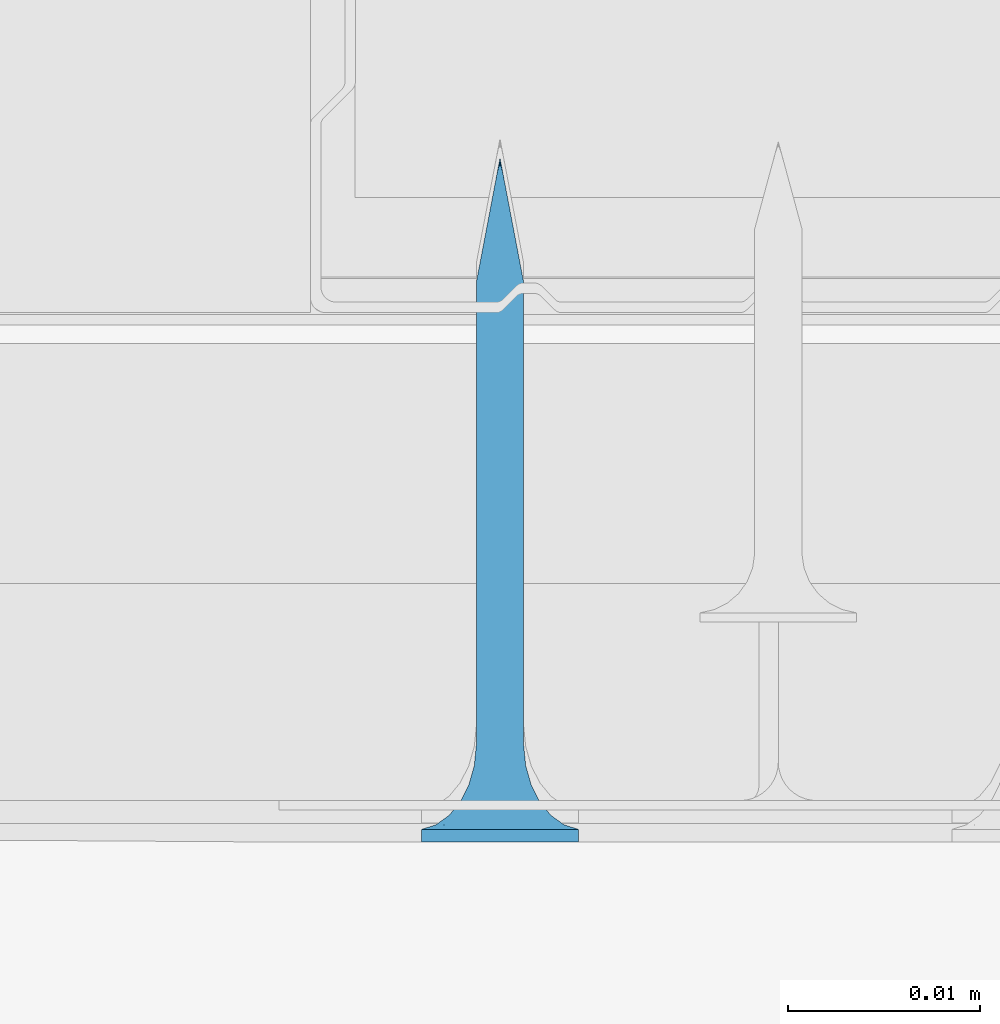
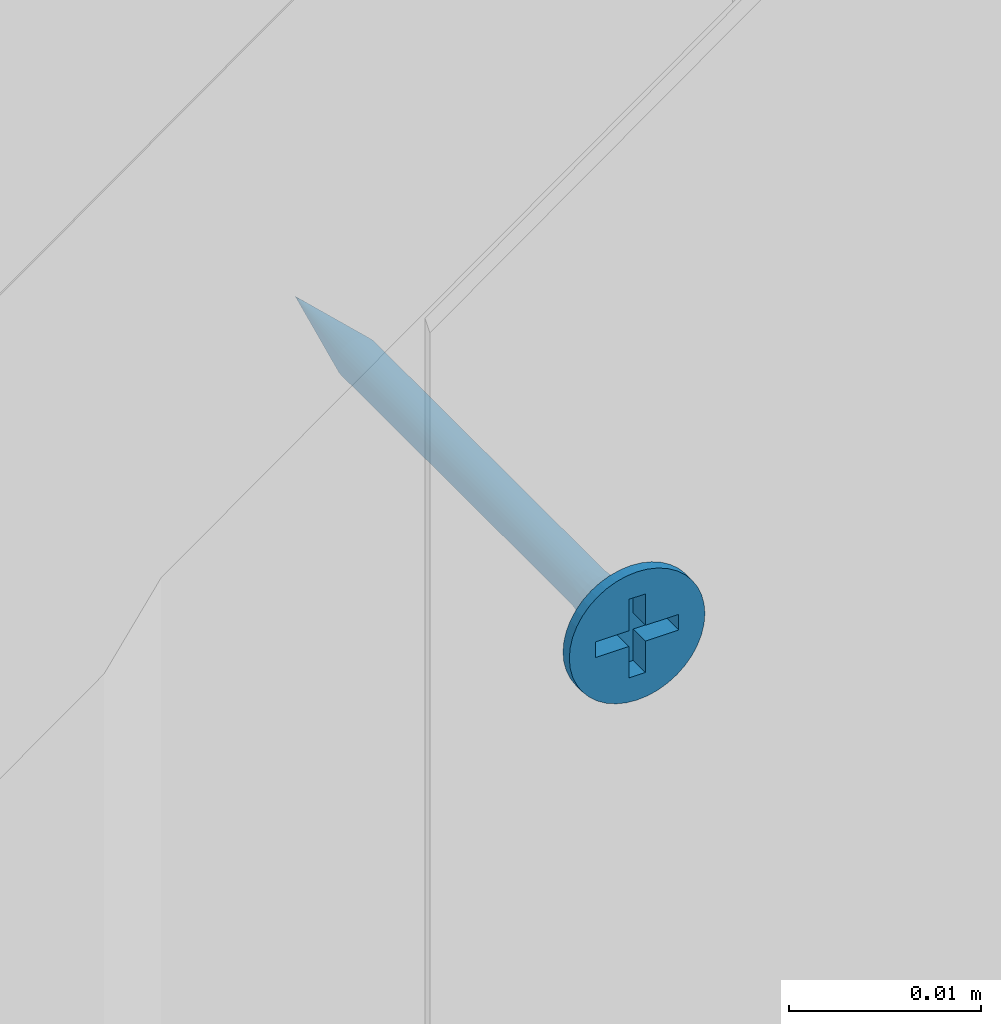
# One storey, part 17 of 36: 1 wall.
"""IFC2X3 building model written with IfcOpenShell, lengths in millimetres."""

from ifc_helpers import new_model, entity, si_unit, converted_unit, direction, frame, origin, origin_with_axes, place, context, project, spatial, faceted_brep, element, save


model = new_model("IFC2X3")

# Units and contexts
model_context = context("Model", 3, precision=1e-05, world=origin(), true_north=direction((0.0, 1.0, 0.0)))
ifc_project = project(units=[si_unit("LENGTHUNIT", "METRE", prefix="MILLI"), si_unit("AREAUNIT", "SQUARE_METRE"), si_unit("VOLUMEUNIT", "CUBIC_METRE"), converted_unit("PLANEANGLEUNIT", "DEGREE", entity("IfcPlaneAngleMeasure", 0.01745), si_unit("PLANEANGLEUNIT", "RADIAN"), dimensions=[0, 0, 0, 0, 0, 0, 0]), si_unit("SOLIDANGLEUNIT", "STERADIAN"), si_unit("MASSUNIT", "GRAM"), si_unit("TIMEUNIT", "SECOND"), si_unit("THERMODYNAMICTEMPERATUREUNIT", "DEGREE_CELSIUS"), si_unit("LUMINOUSINTENSITYUNIT", "LUMEN")], contexts=[model_context])

# Site, building, storey
site_placement = place(None, origin_with_axes())
site = spatial("IfcSite", under=ifc_project, at=site_placement, Name="Default Site", CompositionType="ELEMENT")
building_placement = place(site_placement, origin_with_axes())
building = spatial("IfcBuilding", under=site, at=building_placement, Name="Default Building", CompositionType="ELEMENT")
storey_placement = place(building_placement, origin_with_axes())
storey = spatial("IfcBuildingStorey", under=building, at=storey_placement, Name="Default Building Storey", CompositionType="ELEMENT", Elevation=0.0)

# Wall
wall_placement = place(storey_placement, frame((2770.206542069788, 6778.478129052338, 205.0621105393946), z_axis=(0.0, 0.0, 1.0), x_axis=(1.0, 4.718447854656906e-16, 0.0)))
element("IfcWall", 1, at=wall_placement, inside=storey, Name="Wkręt RIGIPS TN 35", context=model_context, shape_type="Brep", body=[
    faceted_brep([(-141.5377463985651, -4832.598051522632, 555.8000000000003), (-141.5377463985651, -4833.259713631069, 555.8000000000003), (-141.4875329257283, -4833.259713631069, 555.1619773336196), (-141.4875329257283, -4832.598051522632, 555.1619773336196), (-141.3381289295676, -4833.259713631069, 554.5396649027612), (-141.3381289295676, -4832.598051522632, 554.5396649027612), (-141.0932132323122, -4833.259713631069, 553.9483861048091), (-141.0932132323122, -4832.598051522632, 553.9483861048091), (-140.7588164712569, -4833.259713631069, 553.4027001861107), (-140.7588164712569, -4832.598051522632, 553.4027001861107), (-140.3431726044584, -4833.259713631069, 552.9160437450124), (-140.4541727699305, -4832.598051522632, 553.0314907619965), (-140.1080097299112, -4832.598051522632, 552.6986614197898), (-139.8565161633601, -4833.259713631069, 552.5003998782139), (-139.7251262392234, -4832.598051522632, 552.4088262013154), (-139.3108302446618, -4833.259713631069, 552.1660031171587), (-139.3108302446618, -4832.598051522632, 552.1660031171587), (-138.8708651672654, -4832.598051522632, 551.9735584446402), (-138.7195514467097, -4833.259713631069, 551.9210874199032), (-138.4113302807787, -4832.598051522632, 551.8341600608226), (-137.9385961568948, -4832.598051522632, 551.7497404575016), (-138.0972390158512, -4833.259713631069, 551.7716834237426), (-137.4592163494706, -4833.259713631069, 551.7214699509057), (-137.4592163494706, -4832.598051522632, 551.7214699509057), (-136.8211936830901, -4833.259713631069, 551.7716834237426), (-136.8211936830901, -4832.598051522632, 551.7716834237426), (-136.1988812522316, -4833.259713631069, 551.9210874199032), (-136.1988812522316, -4832.598051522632, 551.9210874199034), (-135.6076024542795, -4833.259713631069, 552.1660031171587), (-135.6076024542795, -4832.598051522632, 552.1660031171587), (-135.0619165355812, -4833.259713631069, 552.5003998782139), (-135.0619165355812, -4832.598051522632, 552.5003998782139), (-134.5752600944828, -4833.259713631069, 552.9160437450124), (-134.5752600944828, -4832.598051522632, 552.9160437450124), (-134.1596162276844, -4833.259713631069, 553.4027001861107), (-134.1596162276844, -4832.598051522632, 553.4027001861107), (-133.8252194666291, -4833.259713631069, 553.9483861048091), (-133.8252194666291, -4832.598051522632, 553.9483861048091), (-133.5803037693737, -4833.259713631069, 554.5396649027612), (-133.5803037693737, -4832.598051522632, 554.5396649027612), (-133.430899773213, -4833.259713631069, 556.4380226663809), (-133.430899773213, -4832.598051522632, 556.4380226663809), (-133.3806863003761, -4832.598051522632, 555.8000000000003), (-133.3806863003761, -4833.259713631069, 555.8000000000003), (-133.430899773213, -4832.598051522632, 555.1619773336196), (-133.430899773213, -4833.259713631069, 555.1619773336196), (-133.5803037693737, -4833.259713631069, 557.0603350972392), (-133.5803037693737, -4832.598051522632, 557.0603350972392), (-133.8252194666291, -4833.259713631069, 557.6516138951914), (-133.8252194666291, -4832.598051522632, 557.6516138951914), (-134.1596162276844, -4833.259713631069, 558.1972998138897), (-134.1596162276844, -4832.598051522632, 558.1972998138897), (-134.5752600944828, -4833.259713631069, 558.683956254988), (-134.5752600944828, -4832.598051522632, 558.683956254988), (-135.0619165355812, -4833.259713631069, 559.0996001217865), (-135.0619165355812, -4832.598051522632, 559.0996001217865), (-135.6076024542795, -4833.259713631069, 559.4339968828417), (-135.6076024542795, -4832.598051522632, 559.4339968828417), (-136.1988812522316, -4833.259713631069, 559.6789125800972), (-136.1988812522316, -4832.598051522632, 559.6789125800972), (-136.8211936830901, -4833.259713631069, 559.8283165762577), (-136.8211936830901, -4832.598051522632, 559.8283165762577), (-137.4592163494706, -4833.259713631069, 559.8785300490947), (-137.4592163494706, -4832.598051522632, 559.8785300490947), (-138.0972390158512, -4833.259713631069, 559.8283165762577), (-138.0972390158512, -4832.598051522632, 559.8283165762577), (-138.7195514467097, -4833.259713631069, 559.6789125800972), (-138.7195514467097, -4832.598051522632, 559.6789125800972), (-139.3108302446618, -4833.259713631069, 559.4339968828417), (-139.3108302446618, -4832.598051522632, 559.4339968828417), (-139.8565161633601, -4833.259713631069, 559.0996001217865), (-139.8565161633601, -4832.598051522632, 559.0996001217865), (-140.3431726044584, -4833.259713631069, 558.683956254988), (-140.3431726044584, -4832.598051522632, 558.683956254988), (-140.7588164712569, -4833.259713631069, 558.1972998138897), (-140.7588164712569, -4832.598051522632, 558.1972998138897), (-141.0932132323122, -4833.259713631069, 557.6516138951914), (-141.0932132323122, -4832.598051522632, 557.6516138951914), (-141.3381289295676, -4833.259713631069, 557.0603350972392), (-141.3381289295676, -4832.598051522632, 557.0603350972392), (-141.4875329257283, -4833.259713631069, 556.4380226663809), (-141.4875329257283, -4832.598051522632, 556.4380226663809), (-137.8060615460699, -4829.281368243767, 554.5055560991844), (-137.4592163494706, -4828.206294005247, 554.5693795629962), (-137.651727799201, -4828.206294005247, 554.5845305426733), (-137.4592163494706, -4829.281368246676, 554.4598930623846), (-137.83949897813, -4828.206294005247, 554.6296104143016), (-138.1292698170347, -4829.281368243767, 554.639433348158), (-138.0179063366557, -4828.206294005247, 554.7035091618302), (-138.1825568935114, -4828.206294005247, 554.804407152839), (-138.4068150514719, -4829.281368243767, 554.8524012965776), (-138.329396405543, -4828.206294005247, 554.929819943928), (-138.6197830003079, -4829.281368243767, 555.1299465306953), (-138.4548091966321, -4828.206294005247, 555.0766594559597), (-138.5557071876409, -4828.206294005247, 555.2413100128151), (-138.7536602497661, -4829.281368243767, 555.4531548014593), (-138.6296059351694, -4828.206294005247, 555.4197173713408), (-138.6746858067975, -4828.206294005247, 555.60748855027), (-138.7993232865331, -4829.281368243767, 555.7999999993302), (-138.6898367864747, -4828.206294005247, 555.8000000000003), (-138.753660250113, -4829.281368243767, 556.1468451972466), (-138.6746858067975, -4828.206294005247, 555.9925114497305), (-138.6296059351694, -4828.206294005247, 556.1802826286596), (-138.6197830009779, -4829.281368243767, 556.4700534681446), (-138.5557071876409, -4828.206294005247, 556.3586899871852), (-138.4548091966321, -4828.206294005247, 556.5233405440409), (-138.4068150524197, -4829.281368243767, 556.7475987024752), (-138.329396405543, -4828.206294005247, 556.6701800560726), (-138.1292698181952, -4829.281368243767, 556.9605666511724), (-138.1825568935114, -4828.206294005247, 556.7955928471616), (-138.0179063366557, -4828.206294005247, 556.8964908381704), (-137.8060615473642, -4829.281368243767, 557.0944439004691), (-137.83949897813, -4828.206294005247, 556.9703895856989), (-137.651727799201, -4828.206294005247, 557.0154694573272), (-137.4592163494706, -4829.281368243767, 557.1401069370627), (-137.4592163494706, -4828.206294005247, 557.0306204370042), (-137.112371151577, -4829.281368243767, 557.0944439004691), (-137.2667048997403, -4828.206294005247, 557.0154694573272), (-137.0789337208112, -4828.206294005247, 556.9703895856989), (-136.7891628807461, -4829.281368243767, 556.9605666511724), (-136.9005263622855, -4828.206294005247, 556.8964908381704), (-136.7358758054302, -4828.206294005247, 556.7955928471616), (-136.5116176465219, -4829.281368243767, 556.7475987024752), (-136.5890362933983, -4828.206294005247, 556.6701800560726), (-136.2986496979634, -4829.281368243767, 556.4700534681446), (-136.4636235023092, -4828.206294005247, 556.5233405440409), (-136.3627255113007, -4828.206294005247, 556.3586899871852), (-136.1647724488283, -4829.281368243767, 556.1468451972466), (-136.2888267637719, -4828.206294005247, 556.1802826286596), (-136.2437468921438, -4828.206294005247, 555.9925114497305), (-136.1191094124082, -4829.281368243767, 555.7999999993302), (-136.2285959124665, -4828.206294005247, 555.8000000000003), (-136.1647724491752, -4829.281368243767, 555.4531548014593), (-136.2437468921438, -4828.206294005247, 555.60748855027), (-136.2888267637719, -4828.206294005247, 555.4197173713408), (-136.2986496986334, -4829.281368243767, 555.1299465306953), (-136.3627255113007, -4828.206294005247, 555.2413100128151), (-136.4636235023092, -4828.206294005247, 555.0766594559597), (-136.5116176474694, -4829.281368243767, 554.8524012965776), (-136.5890362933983, -4828.206294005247, 554.929819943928), (-136.7891628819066, -4829.281368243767, 554.639433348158), (-136.7358758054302, -4828.206294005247, 554.804407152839), (-136.9005263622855, -4828.206294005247, 554.7035091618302), (-137.1123711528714, -4829.281368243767, 554.5055560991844), (-137.0789337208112, -4828.206294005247, 554.6296104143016), (-137.2667048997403, -4828.206294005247, 554.5845305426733), (-137.4592163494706, -4830.288222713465, 554.1737111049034), (-137.8801308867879, -4830.288222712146, 554.229125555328), (-138.2723607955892, -4830.288222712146, 554.3915925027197), (-138.6091762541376, -4830.288222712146, 554.6500400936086), (-138.8676238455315, -4830.288222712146, 554.9868555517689), (-139.0300907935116, -4830.288222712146, 555.3790854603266), (-139.0855052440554, -4830.288222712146, 555.7999999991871), (-139.0300907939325, -4830.288222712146, 556.2209145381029), (-138.8676238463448, -4830.288222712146, 556.6131444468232), (-138.6091762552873, -4830.288222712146, 556.9499599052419), (-138.2723607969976, -4830.288222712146, 557.2084074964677), (-137.8801308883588, -4830.288222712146, 557.3708744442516), (-137.4592163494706, -4830.288222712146, 557.426288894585), (-137.0383018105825, -4830.288222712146, 557.3708744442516), (-136.6460719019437, -4830.288222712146, 557.2084074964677), (-136.309256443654, -4830.288222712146, 556.9499599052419), (-136.0508088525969, -4830.288222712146, 556.6131444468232), (-135.8883419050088, -4830.288222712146, 556.2209145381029), (-135.8329274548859, -4830.288222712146, 555.7999999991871), (-135.8883419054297, -4830.288222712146, 555.3790854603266), (-136.0508088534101, -4830.288222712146, 554.9868555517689), (-136.309256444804, -4830.288222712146, 554.6500400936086), (-136.6460719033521, -4830.288222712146, 554.3915925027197), (-137.0383018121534, -4830.288222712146, 554.229125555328), (-137.4592163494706, -4831.168773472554, 553.7273431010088), (-137.9956594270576, -4831.168773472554, 553.7979671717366), (-138.4955447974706, -4831.168773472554, 554.005026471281), (-138.9248060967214, -4831.168773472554, 554.3344102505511), (-139.2541898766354, -4831.168773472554, 554.7636715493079), (-139.4612491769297, -4831.168773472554, 555.2635569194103), (-139.5318732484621, -4831.168773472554, 555.7999999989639), (-139.461249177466, -4831.168773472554, 556.3364430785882), (-139.2541898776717, -4831.168773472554, 556.8363284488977), (-138.9248060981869, -4831.168773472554, 557.2655897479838), (-138.4955447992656, -4831.168773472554, 557.594973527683), (-137.9956594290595, -4831.168773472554, 557.8020328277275), (-137.4592163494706, -4831.168773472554, 557.8726568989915), (-136.9227732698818, -4831.168773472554, 557.8020328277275), (-136.4228878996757, -4831.168773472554, 557.594973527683), (-135.9936266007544, -4831.168773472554, 557.2655897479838), (-135.6642428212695, -4831.168773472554, 556.8363284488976), (-135.4571835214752, -4831.168773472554, 556.3364430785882), (-135.3865594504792, -4831.168773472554, 555.7999999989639), (-135.4571835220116, -4831.168773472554, 555.2635569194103), (-135.6642428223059, -4831.168773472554, 554.7636715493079), (-135.9936266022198, -4831.168773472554, 554.3344102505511), (-136.4228879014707, -4831.168773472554, 554.005026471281), (-136.9227732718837, -4831.168773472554, 553.7979671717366), (-137.4592163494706, -4831.872222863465, 553.1465393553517), (-138.1459824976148, -4831.872222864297, 553.2369538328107), (-138.7859466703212, -4831.872222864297, 553.5020356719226), (-139.3354963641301, -4831.872222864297, 553.9237199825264), (-139.7571806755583, -4831.872222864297, 554.4732696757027), (-140.02226251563, -4831.872222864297, 555.1132338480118), (-140.1126769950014, -4831.872222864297, 555.7999999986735), (-140.0222625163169, -4831.872222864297, 556.4867661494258), (-139.7571806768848, -4831.872222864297, 557.1267303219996), (-139.3354963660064, -4831.872222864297, 557.6762800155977), (-138.785946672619, -4831.872222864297, 558.0979643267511), (-138.1459825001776, -4831.872222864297, 558.3630461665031), (-137.4592163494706, -4831.872222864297, 558.4534606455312), (-136.7724501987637, -4831.872222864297, 558.3630461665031), (-136.1324860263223, -4831.872222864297, 558.0979643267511), (-135.5829363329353, -4831.872222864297, 557.6762800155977), (-135.1612520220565, -4831.872222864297, 557.1267303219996), (-134.8961701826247, -4831.872222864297, 556.4867661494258), (-134.8057557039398, -4831.872222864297, 555.7999999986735), (-134.8961701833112, -4831.872222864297, 555.1132338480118), (-135.161252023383, -4831.872222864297, 554.4732696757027), (-135.5829363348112, -4831.872222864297, 553.9237199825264), (-136.1324860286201, -4831.872222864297, 553.5020356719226), (-136.7724502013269, -4831.872222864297, 553.2369538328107), (-137.4592163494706, -4832.357989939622, 552.4648055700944), (-138.3224281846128, -4832.357989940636, 552.578449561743), (-139.1268135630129, -4832.357989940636, 552.9116368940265), (-139.8175549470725, -4832.357989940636, 553.4416613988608), (-140.3475794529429, -4832.357989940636, 554.1324027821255), (-140.6807667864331, -4832.357989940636, 554.9367881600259), (-140.7944107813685, -4832.357989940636, 555.7999999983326), (-140.6807667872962, -4832.357989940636, 556.6632118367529), (-140.3475794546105, -4832.357989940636, 557.4675972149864), (-139.817554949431, -4832.357989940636, 558.1583385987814), (-139.1268135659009, -4832.357989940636, 558.6883631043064), (-138.3224281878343, -4832.357989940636, 559.0215504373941), (-137.4592163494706, -4832.357989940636, 559.1351944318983), (-136.5960045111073, -4832.357989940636, 559.0215504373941), (-135.7916191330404, -4832.357989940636, 558.6883631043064), (-135.1008777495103, -4832.357989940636, 558.1583385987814), (-134.5708532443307, -4832.357989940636, 557.4675972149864), (-134.2376659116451, -4832.357989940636, 556.6632118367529), (-134.1240219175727, -4832.357989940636, 555.7999999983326), (-134.2376659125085, -4832.357989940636, 554.9367881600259), (-134.5708532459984, -4832.357989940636, 554.1324027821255), (-135.1008777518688, -4832.357989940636, 553.4416613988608), (-135.7916191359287, -4832.357989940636, 552.9116368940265), (-136.5960045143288, -4832.357989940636, 552.578449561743), (-138.6898367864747, -4804.093757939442, 555.8000000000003), (-138.6746858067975, -4804.093757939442, 555.60748855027), (-138.6296059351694, -4804.093757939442, 555.4197173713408), (-138.5557071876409, -4804.093757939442, 555.2413100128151), (-138.4548091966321, -4804.093757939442, 555.0766594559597), (-138.329396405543, -4804.093757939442, 554.929819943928), (-138.1825568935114, -4804.093757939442, 554.804407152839), (-138.0179063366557, -4804.093757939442, 554.7035091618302), (-137.83949897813, -4804.093757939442, 554.6296104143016), (-137.651727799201, -4804.093757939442, 554.5845305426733), (-137.4592163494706, -4804.093757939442, 554.5693795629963), (-137.2667048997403, -4804.093757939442, 554.5845305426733), (-137.0789337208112, -4804.093757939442, 554.6296104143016), (-136.9005263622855, -4804.093757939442, 554.7035091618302), (-136.7358758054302, -4804.093757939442, 554.804407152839), (-136.5890362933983, -4804.093757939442, 554.929819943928), (-136.4636235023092, -4804.093757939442, 555.0766594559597), (-136.3627255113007, -4804.093757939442, 555.2413100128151), (-136.2888267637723, -4804.093757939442, 555.4197173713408), (-136.2437468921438, -4804.093757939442, 555.9925114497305), (-136.2285959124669, -4804.093757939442, 555.8000000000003), (-136.2437468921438, -4804.093757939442, 555.60748855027), (-136.2888267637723, -4804.093757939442, 556.1802826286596), (-136.3627255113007, -4804.093757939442, 556.3586899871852), (-136.4636235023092, -4804.093757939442, 556.5233405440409), (-136.5890362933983, -4804.093757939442, 556.6701800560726), (-136.7358758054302, -4804.093757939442, 556.7955928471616), (-136.9005263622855, -4804.093757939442, 556.8964908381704), (-137.0789337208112, -4804.093757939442, 556.9703895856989), (-137.2667048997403, -4804.093757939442, 557.0154694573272), (-137.4592163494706, -4804.093757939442, 557.0306204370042), (-137.651727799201, -4804.093757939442, 557.0154694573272), (-137.83949897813, -4804.093757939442, 556.9703895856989), (-138.0179063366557, -4804.093757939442, 556.8964908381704), (-138.1825568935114, -4804.093757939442, 556.7955928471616), (-138.329396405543, -4804.093757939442, 556.6701800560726), (-138.4548091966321, -4804.093757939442, 556.5233405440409), (-138.5557071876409, -4804.093757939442, 556.3586899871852), (-138.6296059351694, -4804.093757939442, 556.1802826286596), (-138.6746858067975, -4804.093757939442, 555.9925114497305), (-137.4592163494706, -4797.627063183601, 555.8000000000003), (-139.9592163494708, -4833.259713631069, 556.3000000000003), (-137.9592163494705, -4833.259713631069, 556.3000000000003), (-139.9592163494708, -4833.259713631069, 555.3000000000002), (-137.9592163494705, -4833.259713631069, 555.3000000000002), (-137.9592163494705, -4833.259713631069, 553.3000000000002), (-136.9592163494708, -4833.259713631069, 553.3000000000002), (-136.9592163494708, -4833.259713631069, 555.3000000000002), (-134.9592163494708, -4833.259713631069, 555.3000000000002), (-134.9592163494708, -4833.259713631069, 556.3000000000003), (-136.9592163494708, -4833.259713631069, 556.3000000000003), (-136.9592163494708, -4833.259713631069, 558.3000000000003), (-137.9592163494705, -4833.259713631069, 558.3000000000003), (-136.9592163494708, -4831.988379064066, 556.3000000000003), (-134.9592163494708, -4831.988379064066, 556.3000000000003), (-134.9592163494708, -4831.988379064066, 555.3000000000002), (-136.9592163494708, -4831.988379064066, 555.3000000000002), (-136.9592163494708, -4831.988379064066, 553.3000000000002), (-137.9592163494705, -4831.988379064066, 553.3000000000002), (-137.9592163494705, -4831.988379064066, 555.3000000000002), (-139.9592163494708, -4831.988379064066, 555.3000000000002), (-139.9592163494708, -4831.988379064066, 556.3000000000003), (-137.9592163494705, -4831.988379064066, 556.3000000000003), (-137.9592163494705, -4831.988379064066, 558.3000000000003), (-136.9592163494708, -4831.988379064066, 558.3000000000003)], [[[0, 1, 2, 3]], [[4, 5, 3, 2]], [[6, 7, 5, 4]], [[7, 6, 8, 9]], [[8, 10, 9]], [[10, 11, 9]], [[12, 11, 13]], [[11, 10, 13]], [[13, 14, 12]], [[13, 15, 14]], [[15, 16, 14]], [[17, 16, 18]], [[16, 15, 18]], [[18, 19, 17]], [[20, 19, 21]], [[19, 18, 21]], [[21, 22, 20]], [[22, 23, 20]], [[23, 22, 24, 25]], [[26, 27, 25, 24]], [[28, 29, 27, 26]], [[29, 28, 30, 31]], [[32, 33, 31, 30]], [[33, 32, 34, 35]], [[36, 37, 35, 34]], [[38, 39, 37, 36]], [[40, 41, 42, 43]], [[43, 42, 44, 45]], [[39, 38, 45, 44]], [[46, 47, 41, 40]], [[48, 49, 47, 46]], [[49, 48, 50, 51]], [[52, 53, 51, 50]], [[53, 52, 54, 55]], [[56, 57, 55, 54]], [[58, 59, 57, 56]], [[59, 58, 60, 61]], [[62, 63, 61, 60]], [[63, 62, 64, 65]], [[66, 67, 65, 64]], [[68, 69, 67, 66]], [[69, 68, 70, 71]], [[72, 73, 71, 70]], [[73, 72, 74, 75]], [[76, 77, 75, 74]], [[78, 79, 77, 76]], [[79, 78, 80, 81]], [[1, 0, 81, 80]], [[82, 83, 84]], [[82, 85, 83]], [[84, 86, 82]], [[82, 86, 87]], [[88, 87, 86]], [[87, 88, 89]], [[89, 90, 87]], [[89, 91, 90]], [[92, 91, 93]], [[92, 90, 91]], [[93, 94, 92]], [[92, 94, 95]], [[96, 95, 94]], [[95, 96, 97]], [[97, 98, 95]], [[97, 99, 98]], [[100, 99, 101]], [[100, 98, 99]], [[101, 102, 100]], [[100, 102, 103]], [[104, 103, 102]], [[103, 104, 105]], [[105, 106, 103]], [[105, 107, 106]], [[108, 107, 109]], [[108, 106, 107]], [[109, 110, 108]], [[108, 110, 111]], [[112, 111, 110]], [[111, 112, 113]], [[113, 114, 111]], [[113, 115, 114]], [[116, 115, 117]], [[116, 114, 115]], [[117, 118, 116]], [[116, 118, 119]], [[120, 119, 118]], [[119, 120, 121]], [[121, 122, 119]], [[121, 123, 122]], [[124, 123, 125]], [[124, 122, 123]], [[125, 126, 124]], [[124, 126, 127]], [[128, 127, 126]], [[127, 128, 129]], [[129, 130, 127]], [[129, 131, 130]], [[132, 131, 133]], [[132, 130, 131]], [[133, 134, 132]], [[132, 134, 135]], [[136, 135, 134]], [[135, 136, 137]], [[137, 138, 135]], [[137, 139, 138]], [[140, 139, 141]], [[140, 138, 139]], [[141, 142, 140]], [[140, 142, 143]], [[144, 143, 142]], [[143, 144, 145]], [[145, 85, 143]], [[145, 83, 85]], [[146, 85, 147]], [[82, 147, 85]], [[87, 148, 147, 82]], [[90, 149, 148, 87]], [[92, 150, 149, 90]], [[95, 151, 150, 92]], [[98, 152, 151, 95]], [[100, 153, 152, 98]], [[103, 154, 153, 100]], [[106, 155, 154, 103]], [[108, 156, 155, 106]], [[111, 157, 156, 108]], [[114, 158, 157, 111]], [[116, 159, 158, 114]], [[119, 160, 159, 116]], [[122, 161, 160, 119]], [[124, 162, 161, 122]], [[127, 163, 162, 124]], [[130, 164, 163, 127]], [[132, 165, 164, 130]], [[135, 166, 165, 132]], [[138, 167, 166, 135]], [[140, 168, 167, 138]], [[143, 169, 168, 140]], [[143, 85, 169]], [[146, 169, 85]], [[170, 146, 171]], [[147, 171, 146]], [[148, 172, 171, 147]], [[149, 173, 172, 148]], [[150, 174, 173, 149]], [[151, 175, 174, 150]], [[152, 176, 175, 151]], [[153, 177, 176, 152]], [[154, 178, 177, 153]], [[155, 179, 178, 154]], [[156, 180, 179, 155]], [[157, 181, 180, 156]], [[158, 182, 181, 157]], [[159, 183, 182, 158]], [[160, 184, 183, 159]], [[161, 185, 184, 160]], [[162, 186, 185, 161]], [[163, 187, 186, 162]], [[164, 188, 187, 163]], [[165, 189, 188, 164]], [[166, 190, 189, 165]], [[167, 191, 190, 166]], [[168, 192, 191, 167]], [[169, 193, 192, 168]], [[169, 146, 193]], [[170, 193, 146]], [[194, 170, 195]], [[171, 195, 170]], [[172, 196, 195, 171]], [[173, 197, 196, 172]], [[174, 198, 197, 173]], [[175, 199, 198, 174]], [[176, 200, 199, 175]], [[177, 201, 200, 176]], [[178, 202, 201, 177]], [[179, 203, 202, 178]], [[180, 204, 203, 179]], [[181, 205, 204, 180]], [[182, 206, 205, 181]], [[183, 207, 206, 182]], [[184, 208, 207, 183]], [[185, 209, 208, 184]], [[186, 210, 209, 185]], [[187, 211, 210, 186]], [[188, 212, 211, 187]], [[189, 213, 212, 188]], [[190, 214, 213, 189]], [[191, 215, 214, 190]], [[192, 216, 215, 191]], [[193, 217, 216, 192]], [[193, 170, 217]], [[194, 217, 170]], [[218, 19, 20]], [[218, 219, 19]], [[20, 23, 218]], [[218, 194, 219]], [[195, 219, 194]], [[219, 16, 17]], [[219, 220, 16]], [[17, 19, 219]], [[196, 220, 219, 195]], [[221, 11, 12]], [[220, 12, 14]], [[220, 221, 12]], [[14, 16, 220]], [[197, 221, 220, 196]], [[222, 7, 9]], [[9, 221, 222]], [[9, 11, 221]], [[198, 222, 221, 197]], [[5, 7, 223]], [[222, 223, 7]], [[199, 223, 222, 198]], [[223, 0, 3]], [[223, 224, 0]], [[3, 5, 223]], [[200, 224, 223, 199]], [[225, 79, 81]], [[81, 224, 225]], [[81, 0, 224]], [[201, 225, 224, 200]], [[225, 226, 77, 79]], [[202, 226, 225, 201]], [[226, 73, 75]], [[226, 227, 73]], [[75, 77, 226]], [[203, 227, 226, 202]], [[228, 69, 71]], [[71, 227, 228]], [[71, 73, 227]], [[204, 228, 227, 203]], [[228, 229, 67, 69]], [[205, 229, 228, 204]], [[229, 63, 65]], [[229, 230, 63]], [[65, 67, 229]], [[206, 230, 229, 205]], [[231, 59, 61]], [[61, 230, 231]], [[61, 63, 230]], [[207, 231, 230, 206]], [[231, 232, 57, 59]], [[208, 232, 231, 207]], [[232, 53, 55]], [[232, 233, 53]], [[55, 57, 232]], [[209, 233, 232, 208]], [[234, 49, 51]], [[51, 233, 234]], [[51, 53, 233]], [[210, 234, 233, 209]], [[234, 235, 47, 49]], [[211, 235, 234, 210]], [[235, 42, 41]], [[235, 236, 42]], [[41, 47, 235]], [[212, 236, 235, 211]], [[237, 39, 44]], [[44, 236, 237]], [[44, 42, 236]], [[213, 237, 236, 212]], [[37, 39, 238]], [[237, 238, 39]], [[214, 238, 237, 213]], [[238, 33, 35]], [[238, 239, 33]], [[35, 37, 238]], [[215, 239, 238, 214]], [[240, 29, 31]], [[31, 239, 240]], [[31, 33, 239]], [[216, 240, 239, 215]], [[27, 29, 241]], [[240, 241, 29]], [[217, 241, 240, 216]], [[217, 194, 241]], [[218, 241, 194]], [[241, 23, 25]], [[241, 218, 23]], [[25, 27, 241]], [[242, 99, 97, 243]], [[96, 244, 243, 97]], [[94, 245, 244, 96]], [[245, 94, 93, 246]], [[91, 247, 246, 93]], [[247, 91, 89, 248]], [[88, 249, 248, 89]], [[86, 250, 249, 88]], [[250, 86, 84, 251]], [[83, 252, 251, 84]], [[252, 83, 145, 253]], [[144, 254, 253, 145]], [[142, 255, 254, 144]], [[255, 142, 141, 256]], [[139, 257, 256, 141]], [[257, 139, 137, 258]], [[136, 259, 258, 137]], [[134, 260, 259, 136]], [[129, 261, 262, 131]], [[131, 262, 263, 133]], [[260, 134, 133, 263]], [[128, 264, 261, 129]], [[126, 265, 264, 128]], [[265, 126, 125, 266]], [[123, 267, 266, 125]], [[267, 123, 121, 268]], [[120, 269, 268, 121]], [[118, 270, 269, 120]], [[270, 118, 117, 271]], [[115, 272, 271, 117]], [[272, 115, 113, 273]], [[112, 274, 273, 113]], [[110, 275, 274, 112]], [[275, 110, 109, 276]], [[107, 277, 276, 109]], [[277, 107, 105, 278]], [[104, 279, 278, 105]], [[102, 280, 279, 104]], [[280, 102, 101, 281]], [[99, 242, 281, 101]], [[243, 244, 282]], [[282, 242, 243]], [[244, 245, 282]], [[246, 247, 282]], [[282, 245, 246]], [[248, 249, 282]], [[282, 247, 248]], [[249, 250, 282]], [[251, 252, 282]], [[282, 250, 251]], [[253, 254, 282]], [[282, 252, 253]], [[254, 255, 282]], [[256, 257, 282]], [[282, 255, 256]], [[258, 259, 282]], [[282, 257, 258]], [[259, 260, 282]], [[263, 262, 282]], [[282, 260, 263]], [[261, 264, 282]], [[282, 262, 261]], [[264, 265, 282]], [[266, 267, 282]], [[282, 265, 266]], [[268, 269, 282]], [[282, 267, 268]], [[269, 270, 282]], [[271, 272, 282]], [[282, 270, 271]], [[273, 274, 282]], [[282, 272, 273]], [[274, 275, 282]], [[276, 277, 282]], [[282, 275, 276]], [[278, 279, 282]], [[282, 277, 278]], [[279, 280, 282]], [[281, 242, 282]], [[282, 280, 281]], [[283, 76, 74, 284]], [[283, 285, 286, 287, 288, 289, 290, 291, 292, 293, 294, 284, 74, 72, 70, 68, 66, 64, 62, 60, 58, 56, 54, 52, 50, 48, 46, 40, 43, 45, 38, 36, 34, 32, 30, 28, 26, 24, 22, 21, 18, 15, 13, 10, 8, 6, 4, 2, 1, 80, 78, 76]], [[295, 296, 297, 298, 299, 300, 301, 302, 303, 304, 305, 306]], [[297, 290, 289, 298]], [[296, 291, 290, 297]], [[295, 292, 291, 296]], [[306, 293, 292, 295]], [[305, 294, 293, 306]], [[304, 284, 294, 305]], [[303, 283, 284, 304]], [[302, 285, 283, 303]], [[301, 286, 285, 302]], [[300, 287, 286, 301]], [[299, 288, 287, 300]], [[298, 289, 288, 299]]]),
])

save(model, "model.ifc")
